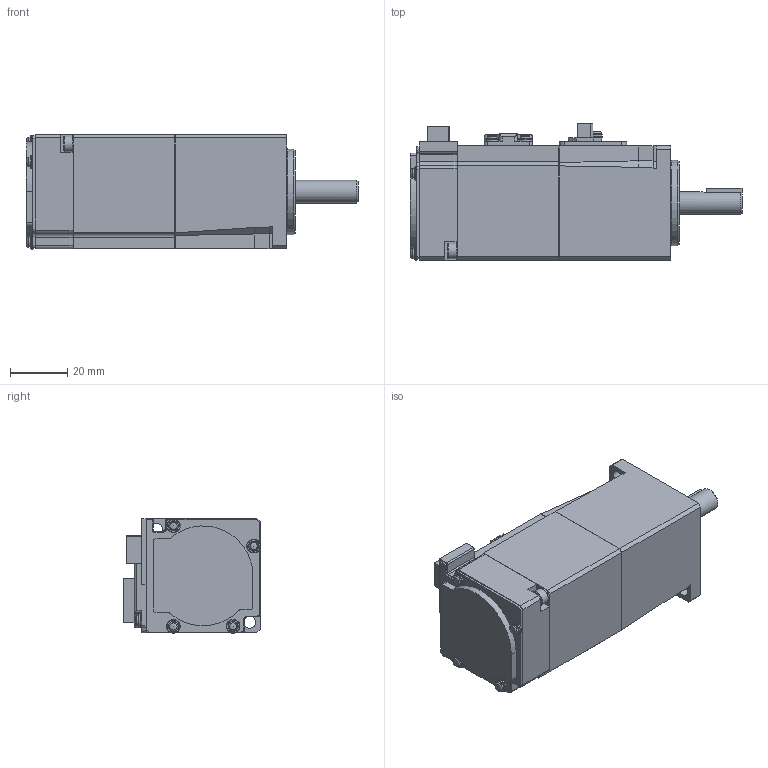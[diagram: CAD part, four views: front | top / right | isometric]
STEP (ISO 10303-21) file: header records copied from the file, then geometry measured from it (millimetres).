
FILE_DESCRIPTION( ( 'STEP AP214' ), '1' );
FILE_NAME( 'e:/temp/worker_136/temp/exporttempdir_540_389_BzfTg/format_0/MHMF5AZL1V1 Z0.stp', '2022-04-08T06:42:25', ( 'License CC BY-ND 4.0' ), ( 'CADENAS' ), ' ', 'PARTsolutions', ' ' );
FILE_SCHEMA( ( 'AUTOMOTIVE_DESIGN { 1 0 10303 214 1 1 1 1 }' ) );
Length unit declared in the file: millimetre
Products named in the file (2): MHMF5AZL1V1 Z0; _MHMF5A2L1U4Zcon
Assembly tree (1 placements, depth 2):
  MHMF5AZL1V1 Z0
    _MHMF5A2L1U4Zcon
Bounding box: 116.4 x 48.05 x 40.15 mm (x, y, z)
Volume: 145442.9 mm3; surface area: 21599.4 mm2
Topology: 1 solids, 1 shells, 519 faces, 1323 edges, 857 vertices
Faces by surface type: plane 367, cylinder 102, cone 31, torus 10, sphere 9
Full cylindrical faces by diameter (mm): 1.567 x8, 2.459 x1, 3.1 x1, 4.3 x7, 4.4 x9, 4.8 x4, 5.5 x2, 6 x2, 8 x1, 8.9 x1, 10.5 x1, 30 x1
Entity records: 18979 total; most frequent: CARTESIAN_POINT 2583, DIRECTION 2477, ORIENTED_EDGE 2392, EDGE_CURVE 1196, LINE 951, VECTOR 951, VERTEX_POINT 835, AXIS2_PLACEMENT_3D 763
